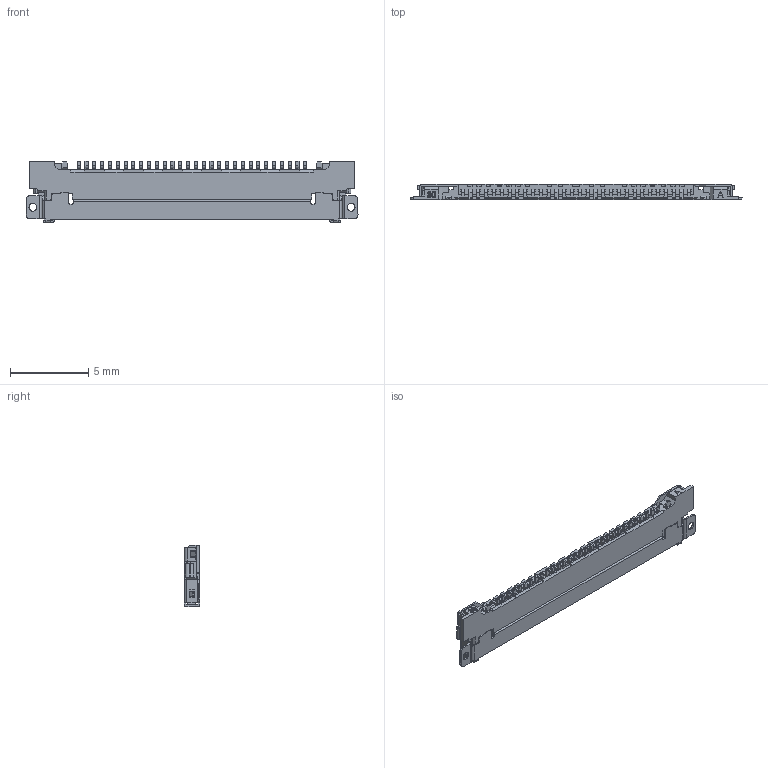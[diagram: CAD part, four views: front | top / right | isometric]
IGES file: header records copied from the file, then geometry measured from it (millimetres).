
Start section: SolidWorks IGES file using analytic representation for surfaces
Global section: file name: C:\3dwork\CAB-VS\20455-030E-x2C RECE ASS'Y IGES R6 ALL.IGS; native system: SolidWorks 2011; preprocessor: SolidWorks 2011; author: kaihatsu-3dcad-2; date: 110930.112853; units: millimetre
Bounding box: 21.25 x 1 x 3.95 mm (x, y, z)
Surface area: 294.6 mm2 (no closed solid volume)
Topology: 0 solids, 0 shells, 1664 faces, 11476 edges, 11476 vertices
Faces by surface type: bspline 1209, revolution 455
